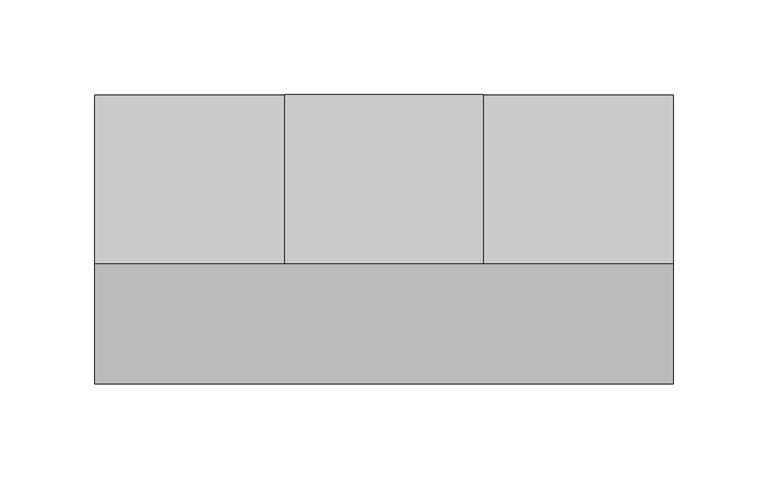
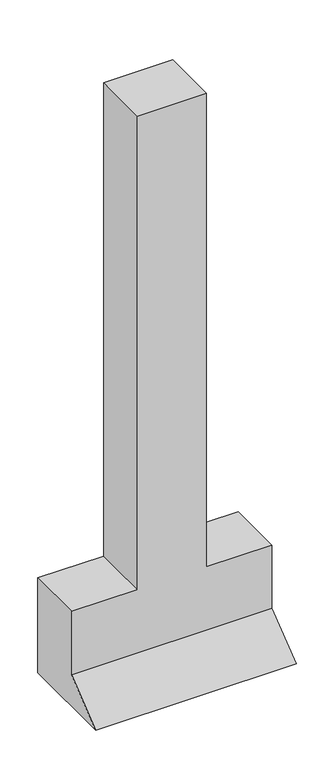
"""IFC4 building model written with IfcOpenShell, lengths in millimetres: proxy geometry, Riser-Walkercell-Wiremold : CBR-LHT."""

from ifc_helpers import new_model, si_unit, origin, place, context, project, spatial, faceted_brep, source, transform, mapped, element, save


def electrical_fixtures_99654428(model_context):
    return source(origin(), model_context, "Body", "Brep", [
        faceted_brep([(52.3875, 76.2, 914.4), (52.3875, -12.7, 914.4), (52.3875, -12.7, 152.4), (52.3875, 76.2, 152.4), (-52.3875, 76.2, 914.4), (-52.3875, 76.2, 152.4), (-52.3875, -12.7, 152.4), (-52.3875, -12.7, 914.4), (-152.4, -12.7, 152.4), (-152.4, -12.7, 50.8), (152.4, -12.7, 50.8), (152.4, -12.7, 152.4), (152.4, 76.2, 152.4), (152.4, 76.2, 0.0), (-152.4, 76.2, 0.0), (-152.4, 76.2, 152.4), (152.4, -76.2, 0.0), (-152.4, -76.2, 0.0)], [[[0, 1, 2, 3]], [[4, 5, 6, 7]], [[1, 0, 4, 7]], [[2, 1, 7, 6, 8, 9, 10, 11]], [[0, 3, 12, 13, 14, 15, 5, 4]], [[10, 16, 13, 12, 11]], [[9, 8, 15, 14, 17]], [[16, 10, 9, 17]], [[13, 16, 17, 14]], [[11, 12, 3, 2]], [[15, 8, 6, 5]]]),
    ])


if __name__ == "__main__":
    model = new_model("IFC4")
    model_context = context("Model", 3, world=origin())
    ifc_project = project(units=[si_unit("LENGTHUNIT", "METRE", prefix="MILLI")], contexts=[model_context])
    site = spatial("IfcSite", under=ifc_project)
    building = spatial("IfcBuilding", under=site)
    placement = place(None, origin())
    electrical_fixtures_shape = electrical_fixtures_99654428(model_context)
    element("IfcBuildingElementProxy", 1, Name="Riser-Walkercell-Wiremold : CBR-LHT", ObjectType="Riser-Walkercell-Wiremold : CBR-LHT", at=placement, inside=building, context=model_context, shape_type="MappedRepresentation", body=[
        mapped(electrical_fixtures_shape, transform((0.0, 0.0, 0.0), x_axis=(1.0, 0.0, 0.0), y_axis=(0.0, 1.0, 0.0), z_axis=(0.0, 0.0, 1.0))),
    ])
    save(model, "model.ifc")
